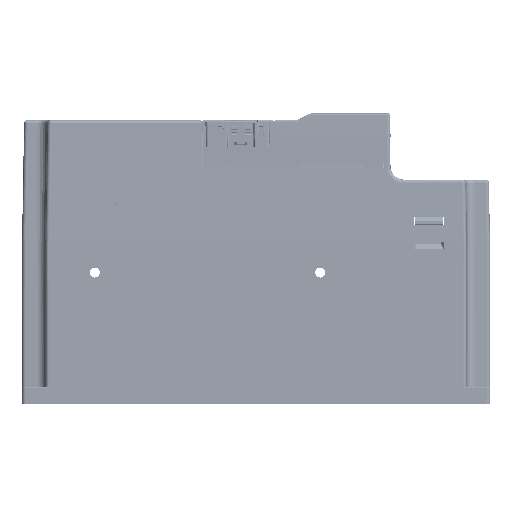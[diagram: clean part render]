
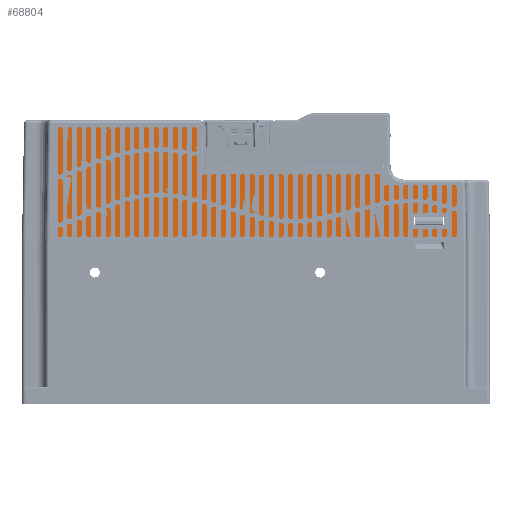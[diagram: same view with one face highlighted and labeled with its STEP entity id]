
A CAD part, left-side view. The second image highlights one B-rep face of the part: STEP entity #68804.
In plain terms, the highlighted planar face has unit normal (1, 0, -0.018).
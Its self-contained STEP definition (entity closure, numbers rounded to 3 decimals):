
#64058 = VERTEX_POINT ( 'NONE', #232001 ) ;
#64060 = VERTEX_POINT ( 'NONE', #232002 ) ;
#64062 = VERTEX_POINT ( 'NONE', #232003 ) ;
#64064 = VERTEX_POINT ( 'NONE', #232004 ) ;
#64066 = VERTEX_POINT ( 'NONE', #232005 ) ;
#64068 = VERTEX_POINT ( 'NONE', #232006 ) ;
#64070 = VERTEX_POINT ( 'NONE', #232007 ) ;
#64072 = VERTEX_POINT ( 'NONE', #232008 ) ;
#64074 = VERTEX_POINT ( 'NONE', #232009 ) ;
#64076 = VERTEX_POINT ( 'NONE', #232010 ) ;
#64078 = VERTEX_POINT ( 'NONE', #232011 ) ;
#64080 = VERTEX_POINT ( 'NONE', #232012 ) ;
#64082 = VERTEX_POINT ( 'NONE', #232013 ) ;
#64084 = VERTEX_POINT ( 'NONE', #232014 ) ;
#68804 = ADVANCED_FACE ( 'NONE', ( #244238, #244242 ), #244585, .T. ) ;
#78785 = EDGE_CURVE ( 'NONE', #64060, #64062, #119125, .T. ) ;
#78786 = EDGE_CURVE ( 'NONE', #64058, #64060, #119131, .T. ) ;
#78787 = EDGE_CURVE ( 'NONE', #64062, #64064, #119137, .T. ) ;
#78788 = EDGE_CURVE ( 'NONE', #64068, #64070, #119143, .T. ) ;
#78789 = EDGE_CURVE ( 'NONE', #64064, #64058, #119149, .T. ) ;
#78790 = EDGE_CURVE ( 'NONE', #64066, #64068, #166183, .T. ) ;
#78791 = EDGE_CURVE ( 'NONE', #64070, #64072, #119191, .T. ) ;
#78792 = EDGE_CURVE ( 'NONE', #64072, #64074, #119197, .T. ) ;
#78793 = EDGE_CURVE ( 'NONE', #64074, #64076, #119203, .T. ) ;
#78794 = EDGE_CURVE ( 'NONE', #64076, #64078, #119209, .T. ) ;
#78795 = EDGE_CURVE ( 'NONE', #64078, #64080, #119215, .T. ) ;
#78796 = EDGE_CURVE ( 'NONE', #64080, #64082, #119221, .T. ) ;
#78797 = EDGE_CURVE ( 'NONE', #64082, #64084, #119227, .T. ) ;
#78798 = EDGE_CURVE ( 'NONE', #64084, #64066, #119233, .T. ) ;
#85403 = EDGE_LOOP ( 'NONE', ( #85793, #85795, #85794, #85796 ) ) ;
#85404 = EDGE_LOOP ( 'NONE', ( #85797, #85799, #85798, #85800, #85801, #85802, #85803, #85804, #85805, #85806 ) ) ;
#85793 = ORIENTED_EDGE ( 'NONE', *, *, #78786, .T. ) ;
#85794 = ORIENTED_EDGE ( 'NONE', *, *, #78787, .T. ) ;
#85795 = ORIENTED_EDGE ( 'NONE', *, *, #78785, .T. ) ;
#85796 = ORIENTED_EDGE ( 'NONE', *, *, #78789, .T. ) ;
#85797 = ORIENTED_EDGE ( 'NONE', *, *, #78790, .T. ) ;
#85798 = ORIENTED_EDGE ( 'NONE', *, *, #78791, .T. ) ;
#85799 = ORIENTED_EDGE ( 'NONE', *, *, #78788, .T. ) ;
#85800 = ORIENTED_EDGE ( 'NONE', *, *, #78792, .T. ) ;
#85801 = ORIENTED_EDGE ( 'NONE', *, *, #78793, .T. ) ;
#85802 = ORIENTED_EDGE ( 'NONE', *, *, #78794, .T. ) ;
#85803 = ORIENTED_EDGE ( 'NONE', *, *, #78795, .T. ) ;
#85804 = ORIENTED_EDGE ( 'NONE', *, *, #78796, .T. ) ;
#85805 = ORIENTED_EDGE ( 'NONE', *, *, #78797, .T. ) ;
#85806 = ORIENTED_EDGE ( 'NONE', *, *, #78798, .T. ) ;
#119069 = CARTESIAN_POINT ( 'NONE',  ( -96.15, 61.455, 140.99 ) ) ;
#119125 = LINE ( 'NONE', #119127, #122495 ) ;
#119127 = CARTESIAN_POINT ( 'NONE',  ( -96.657, 140., 111.89 ) ) ;
#119129 = DIRECTION ( 'NONE',  ( 0., 1., 0. ) ) ;
#119131 = LINE ( 'NONE', #119133, #122502 ) ;
#119133 = CARTESIAN_POINT ( 'NONE',  ( -96.301, 27.75, 132.29 ) ) ;
#119135 = DIRECTION ( 'NONE',  ( 0.017, 0., 1. ) ) ;
#119137 = LINE ( 'NONE', #119139, #122507 ) ;
#119139 = CARTESIAN_POINT ( 'NONE',  ( -96.301, 45.25, 132.29 ) ) ;
#119141 = DIRECTION ( 'NONE',  ( -0.017, 0., -1. ) ) ;
#119143 = LINE ( 'NONE', #119145, #122512 ) ;
#119145 = CARTESIAN_POINT ( 'NONE',  ( -96.306, 140., 132.024 ) ) ;
#119147 = DIRECTION ( 'NONE',  ( 0., -1., 0. ) ) ;
#119149 = LINE ( 'NONE', #119151, #122517 ) ;
#119151 = CARTESIAN_POINT ( 'NONE',  ( -96.745, 140., 106.89 ) ) ;
#119153 = DIRECTION ( 'NONE',  ( 0., -1., 0. ) ) ;
#119155 = CARTESIAN_POINT ( 'NONE',  ( -96.16, 61.391, 140.379 ) ) ;
#119157 = CARTESIAN_POINT ( 'NONE',  ( -96.176, 61.215, 139.486 ) ) ;
#119159 = CARTESIAN_POINT ( 'NONE',  ( -96.193, 60.869, 138.485 ) ) ;
#119161 = CARTESIAN_POINT ( 'NONE',  ( -96.201, 60.691, 138.065 ) ) ;
#119163 = CARTESIAN_POINT ( 'NONE',  ( -96.205, 60.566, 137.786 ) ) ;
#119165 = CARTESIAN_POINT ( 'NONE',  ( -96.208, 60.5, 137.649 ) ) ;
#119167 = CARTESIAN_POINT ( 'NONE',  ( -96.23, 59.869, 136.401 ) ) ;
#119169 = CARTESIAN_POINT ( 'NONE',  ( -96.247, 59.126, 135.429 ) ) ;
#119171 = CARTESIAN_POINT ( 'NONE',  ( -96.268, 57.743, 134.181 ) ) ;
#119173 = CARTESIAN_POINT ( 'NONE',  ( -96.278, 57.007, 133.63 ) ) ;
#119175 = CARTESIAN_POINT ( 'NONE',  ( -96.287, 56.069, 133.115 ) ) ;
#119177 = CARTESIAN_POINT ( 'NONE',  ( -96.29, 55.65, 132.922 ) ) ;
#119179 = CARTESIAN_POINT ( 'NONE',  ( -96.292, 55.367, 132.799 ) ) ;
#119181 = CARTESIAN_POINT ( 'NONE',  ( -96.294, 55.222, 132.739 ) ) ;
#119183 = CARTESIAN_POINT ( 'NONE',  ( -96.302, 53.929, 132.246 ) ) ;
#119185 = CARTESIAN_POINT ( 'NONE',  ( -96.306, 52.738, 132.026 ) ) ;
#119187 = CARTESIAN_POINT ( 'NONE',  ( -96.306, 51.506, 132.024 ) ) ;
#119191 = LINE ( 'NONE', #119193, #122525 ) ;
#119193 = CARTESIAN_POINT ( 'NONE',  ( -96.306, 16.594, 132.024 ) ) ;
#119195 = DIRECTION ( 'NONE',  ( -0.017, -0.017, -1. ) ) ;
#119197 = LINE ( 'NONE', #119199, #122529 ) ;
#119199 = CARTESIAN_POINT ( 'NONE',  ( -96.926, 140., 96.49 ) ) ;
#119201 = DIRECTION ( 'NONE',  ( 0., 1., 0. ) ) ;
#119203 = LINE ( 'NONE', #119205, #122534 ) ;
#119205 = CARTESIAN_POINT ( 'NONE',  ( -96.926, 264.026, 96.49 ) ) ;
#119207 = DIRECTION ( 'NONE',  ( 0.017, -0.017, 1. ) ) ;
#119209 = LINE ( 'NONE', #119211, #122539 ) ;
#119211 = CARTESIAN_POINT ( 'NONE',  ( -95.685, 140., 167.624 ) ) ;
#119213 = DIRECTION ( 'NONE',  ( 0., -1., 0. ) ) ;
#119215 = LINE ( 'NONE', #119217, #122545 ) ;
#119217 = CARTESIAN_POINT ( 'NONE',  ( -96.301, 172.7, 132.29 ) ) ;
#119219 = DIRECTION ( 'NONE',  ( 0.017, 0., 1. ) ) ;
#119221 = LINE ( 'NONE', #119223, #122550 ) ;
#119223 = CARTESIAN_POINT ( 'NONE',  ( -95.676, 140., 168.09 ) ) ;
#119225 = DIRECTION ( 'NONE',  ( 0., -1., 0. ) ) ;
#119227 = LINE ( 'NONE', #119229, #122554 ) ;
#119229 = CARTESIAN_POINT ( 'NONE',  ( -95.676, 171.973, 168.09 ) ) ;
#119231 = DIRECTION ( 'NONE',  ( -0.017, -0.017, -1. ) ) ;
#119233 = LINE ( 'NONE', #119235, #122560 ) ;
#119235 = CARTESIAN_POINT ( 'NONE',  ( -96.15, 140., 140.99 ) ) ;
#119237 = DIRECTION ( 'NONE',  ( 0., -1., 0. ) ) ;
#122495 = VECTOR ( 'NONE', #119129, 1000. ) ;
#122502 = VECTOR ( 'NONE', #119135, 1000. ) ;
#122507 = VECTOR ( 'NONE', #119141, 1000. ) ;
#122512 = VECTOR ( 'NONE', #119147, 1000. ) ;
#122517 = VECTOR ( 'NONE', #119153, 1000. ) ;
#122525 = VECTOR ( 'NONE', #119195, 1000. ) ;
#122529 = VECTOR ( 'NONE', #119201, 1000. ) ;
#122534 = VECTOR ( 'NONE', #119207, 1000. ) ;
#122539 = VECTOR ( 'NONE', #119213, 1000. ) ;
#122545 = VECTOR ( 'NONE', #119219, 1000. ) ;
#122550 = VECTOR ( 'NONE', #119225, 1000. ) ;
#122554 = VECTOR ( 'NONE', #119231, 1000. ) ;
#122560 = VECTOR ( 'NONE', #119237, 1000. ) ;
#166183 = B_SPLINE_CURVE_WITH_KNOTS ( 'NONE', 3,
 ( #119069, #119155, #119157, #119159, #119161, #119163, #119165, #119167, #119169, #119171, #119173, #119175, #119177, #119179, #119181, #119183, #119185, #119187 ),
 .UNSPECIFIED., .F., .F.,
 ( 4, 1, 1, 2, 2, 2, 1, 1, 2, 2, 4 ),
 ( 0., 0.125, 0.187, 0.219, 0.25, 0.5, 0.625, 0.687, 0.719, 0.75, 1. ),
 .UNSPECIFIED. ) ;
#232001 = CARTESIAN_POINT ( 'NONE',  ( -96.745, 27.75, 106.89 ) ) ;
#232002 = CARTESIAN_POINT ( 'NONE',  ( -96.657, 27.75, 111.89 ) ) ;
#232003 = CARTESIAN_POINT ( 'NONE',  ( -96.657, 45.25, 111.89 ) ) ;
#232004 = CARTESIAN_POINT ( 'NONE',  ( -96.745, 45.25, 106.89 ) ) ;
#232005 = CARTESIAN_POINT ( 'NONE',  ( -96.15, 61.455, 140.99 ) ) ;
#232006 = CARTESIAN_POINT ( 'NONE',  ( -96.306, 51.506, 132.024 ) ) ;
#232007 = CARTESIAN_POINT ( 'NONE',  ( -96.306, 16.594, 132.024 ) ) ;
#232008 = CARTESIAN_POINT ( 'NONE',  ( -96.926, 15.974, 96.49 ) ) ;
#232009 = CARTESIAN_POINT ( 'NONE',  ( -96.926, 264.026, 96.49 ) ) ;
#232010 = CARTESIAN_POINT ( 'NONE',  ( -95.685, 262.785, 167.624 ) ) ;
#232011 = CARTESIAN_POINT ( 'NONE',  ( -95.685, 172.7, 167.624 ) ) ;
#232012 = CARTESIAN_POINT ( 'NONE',  ( -95.676, 172.7, 168.09 ) ) ;
#232013 = CARTESIAN_POINT ( 'NONE',  ( -95.676, 171.973, 168.09 ) ) ;
#232014 = CARTESIAN_POINT ( 'NONE',  ( -96.15, 171.5, 140.99 ) ) ;
#244238 = FACE_BOUND ( 'NONE', #85403, .T. ) ;
#244242 = FACE_OUTER_BOUND ( 'NONE', #85404, .T. ) ;
#244245 = AXIS2_PLACEMENT_3D ( 'NONE', #244586, #244587, #244588 ) ;
#244585 = PLANE ( 'NONE',  #244245 ) ;
#244586 = CARTESIAN_POINT ( 'NONE',  ( -96.301, 140., 132.29 ) ) ;
#244587 = DIRECTION ( 'NONE',  ( 1., 0., -0.017 ) ) ;
#244588 = DIRECTION ( 'NONE',  ( -0.017, 0., -1. ) ) ;
